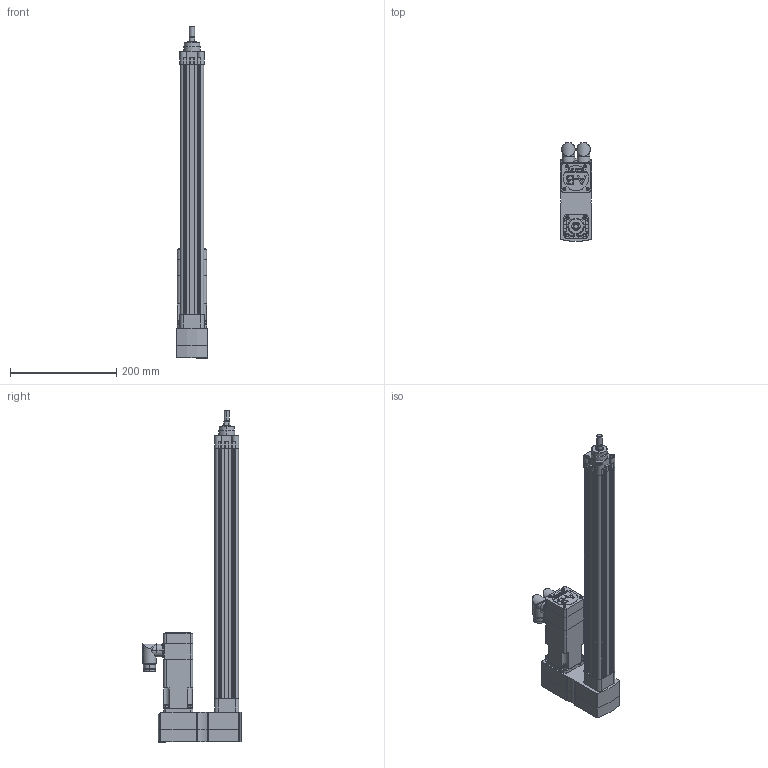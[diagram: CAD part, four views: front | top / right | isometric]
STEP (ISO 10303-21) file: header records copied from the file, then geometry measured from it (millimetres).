
FILE_DESCRIPTION (( 'STEP AP214' ), '1' );
FILE_NAME ('Rockwell Automation-$PARTNUMBER.STEP', '2014-03-13T18:01:40', ( 'Windows User' ), ( '' ), 'SwSTEP 2.0', 'SolidWorks 2014', '' );
FILE_SCHEMA (( 'AUTOMOTIVE_DESIGN' ));
Length unit declared in the file: millimetre
Products named in the file (15): Rockwell Automation-$PARTNUMBER_Rockwell Automation-MPAR-X1400E-V2B_627500_1210151; Rockwell Automation-$PARTNUMBER_Rockwell Automation-MPAR-X1400E-V2B_627500_1210193; Rockwell Automation-$PARTNUMBER_Rockwell Automation-MPAR-X1400E-V2B_MPL-x1530F-V-X205_MPL-x1530x-xJ42AA; Rockwell Automation-$PARTNUMBER_Rockwell Automation-MPAR-X1400E-V2B_MPL-x1530x-xJ42AA_MPL-15xx-Feedback Connector; Rockwell Automation-$PARTNUMBER_Rockwell Automation-MPAR-X1400E-V2B_MPL-x1530x-xJ42AA_MPL-15xx-Power Connector; Rockwell Automation-$PARTNUMBER_Rockwell Automation-MPAR-X1400E-V2B_MPL-x1530x-xJ42AA_MPL-15xx-Shaft-Key_1530-SHAFT-KEYED; Rockwell Automation-$PARTNUMBER_Rockwell Automation-MPAR-X1400E-V2B_MPL-x1530x-xJ42AA_MPL-15xx-Body_1530; Rockwell Automation-$PARTNUMBER; Rockwell Automation-$PARTNUMBER_Rockwell Automation-MPAR-X1400E-V2B_MPAR-x1400x; Rockwell Automation-$PARTNUMBER_Rockwell Automation-MPAR-X1400E-V2B_PRT0006-543122; Rockwell Automation-$PARTNUMBER_Rockwell Automation-MPAR-X1400E-V2B_PRT0005-543122; Rockwell Automation-$PARTNUMBER_Rockwell Automation-MPAR-X1400E-V2B_627500; Rockwell Automation-$PARTNUMBER_Rockwell Automation-MPAR-X1400E-V2B_627500_200048_2; Rockwell Automation-$PARTNUMBER_Rockwell Automation-MPAR-X1400E-V2B_627500_223541_3; Rockwell Automation-$PARTNUMBER_Rockwell Automation-MPAR-X1400E-V2B_627500_200671_1
Assembly tree (24 placements, depth 3):
  Rockwell Automation-$PARTNUMBER
    Rockwell Automation-$PARTNUMBER_Rockwell Automation-MPAR-X1400E-V2B_MPL-x1530F-V-X205_MPL-x1530x-xJ42AA
      Rockwell Automation-$PARTNUMBER_Rockwell Automation-MPAR-X1400E-V2B_MPL-x1530x-xJ42AA_MPL-15xx-Body_1530
      Rockwell Automation-$PARTNUMBER_Rockwell Automation-MPAR-X1400E-V2B_MPL-x1530x-xJ42AA_MPL-15xx-Shaft-Key_1530-SHAFT-KEYED
      Rockwell Automation-$PARTNUMBER_Rockwell Automation-MPAR-X1400E-V2B_MPL-x1530x-xJ42AA_MPL-15xx-Power Connector
      Rockwell Automation-$PARTNUMBER_Rockwell Automation-MPAR-X1400E-V2B_MPL-x1530x-xJ42AA_MPL-15xx-Feedback Connector
    Rockwell Automation-$PARTNUMBER_Rockwell Automation-MPAR-X1400E-V2B_627500
      Rockwell Automation-$PARTNUMBER_Rockwell Automation-MPAR-X1400E-V2B_627500_1210193
      Rockwell Automation-$PARTNUMBER_Rockwell Automation-MPAR-X1400E-V2B_627500_1210151
      Rockwell Automation-$PARTNUMBER_Rockwell Automation-MPAR-X1400E-V2B_627500_200671_1  x4
      Rockwell Automation-$PARTNUMBER_Rockwell Automation-MPAR-X1400E-V2B_627500_223541_3  x4
      Rockwell Automation-$PARTNUMBER_Rockwell Automation-MPAR-X1400E-V2B_627500_200048_2  x5
    Rockwell Automation-$PARTNUMBER_Rockwell Automation-MPAR-X1400E-V2B_MPAR-x1400x
      Rockwell Automation-$PARTNUMBER_Rockwell Automation-MPAR-X1400E-V2B_PRT0005-543122
      Rockwell Automation-$PARTNUMBER_Rockwell Automation-MPAR-X1400E-V2B_PRT0006-543122
Bounding box: 60 x 185.2 x 626 mm (x, y, z)
Volume: 1363791.3 mm3; surface area: 393241.2 mm2
Topology: 25 solids, 25 shells, 1697 faces, 4042 edges, 2516 vertices
Faces by surface type: plane 661, cylinder 580, cone 294, bspline 114, torus 48
Entity records: 45071 total; most frequent: CARTESIAN_POINT 10453, DIRECTION 7384, ORIENTED_EDGE 6700, EDGE_CURVE 3350, AXIS2_PLACEMENT_3D 2801, VERTEX_POINT 2096, VECTOR 1782, LINE 1782
